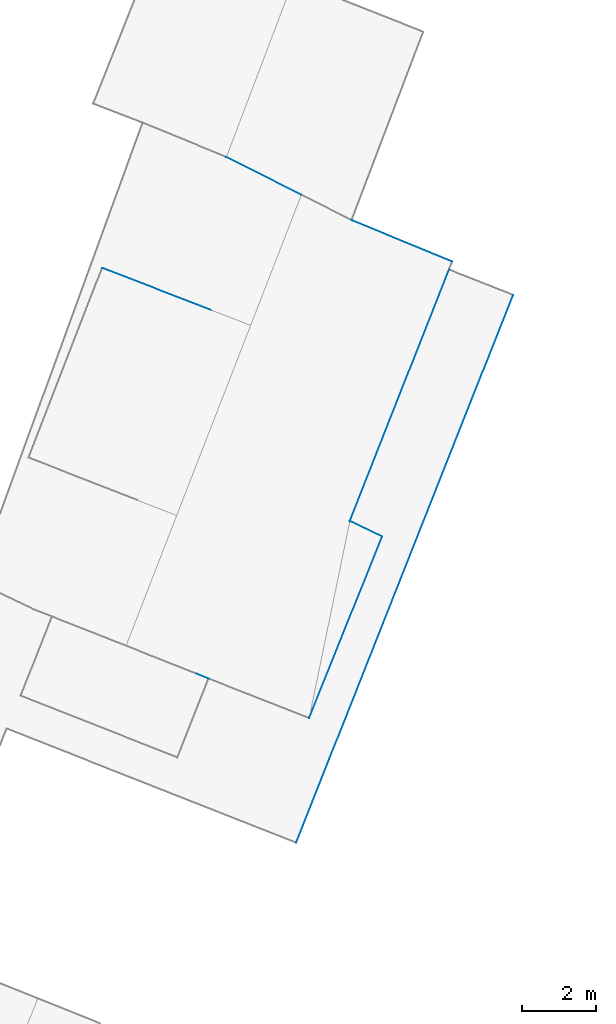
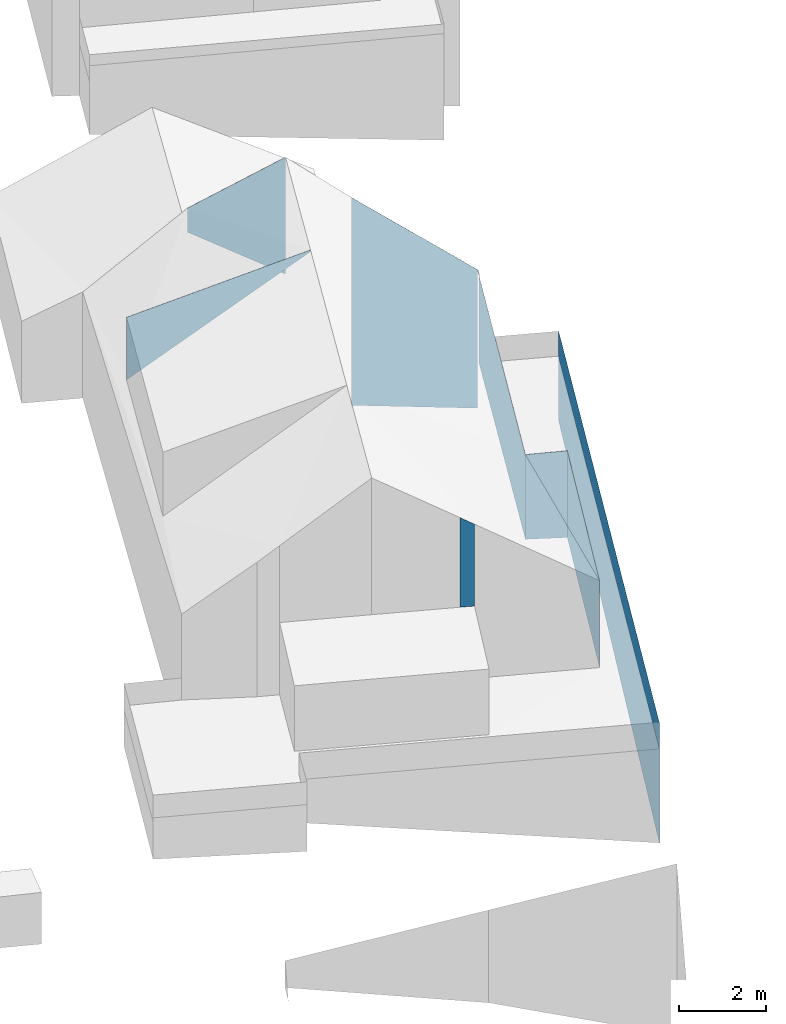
# Not in any storey, part 32 of 57: 10 walls.
"""IFC2X3 building model written with IfcOpenShell, lengths in metres."""

import ifcopenshell
import ifcopenshell.guid

model = None  # the IFC model being written
_history = None  # IfcOwnerHistory: only IFC2X3 demands one
_inside = {}  # id of a spatial element -> (the spatial element, [elements in it])
_under = {}  # id of a project, library or spatial element -> (it, [spatial elements below it])
_declared = {}  # id of a project -> (the project, [libraries it declares])
_typed = {}  # id of a type object -> (the type object, [elements of that type])
_made_of = {}  # id of a material, layer set ... -> (it, [elements and type objects made of it])


def new_model(schema):
    """Start an empty IFC model of exactly this schema.

    Asked for "IFC4X3", IfcOpenShell would pick the latest addendum, in which some entities
    have other attributes; the version numbers below select the first issue.
    IFC2X3 requires an IfcOwnerHistory on every rooted entity: one is made here for all.
    """
    global model, _history
    if schema == "IFC4X3":
        model = ifcopenshell.file(schema_version=(4, 3, 0, 0))
    else:
        model = ifcopenshell.file(schema=schema)
    _inside.clear()
    _under.clear()
    _declared.clear()
    _typed.clear()
    _made_of.clear()
    _history = None
    if model.schema == "IFC2X3":
        org = make("IfcOrganization", Name="unknown")
        user = make(
            "IfcPersonAndOrganization",
            ThePerson=make("IfcPerson", FamilyName="unknown"),
            TheOrganization=org,
        )
        app = make(
            "IfcApplication",
            ApplicationDeveloper=org,
            Version="unknown",
            ApplicationFullName="unknown",
            ApplicationIdentifier="unknown",
        )
        _history = make(
            "IfcOwnerHistory",
            OwningUser=user,
            OwningApplication=app,
            ChangeAction="ADDED",
            CreationDate=0,
        )
    return model


def make(cls, **values):
    """One entity of the class cls with the attributes given. An attribute that is None is left unset."""
    return model.create_entity(
        cls, **{name: value for name, value in values.items() if value is not None}
    )


def entity(cls, *values):
    """Any entity or typed value of the class cls, its attributes in the order of the schema. None: left unset."""
    e = model.create_entity(cls)
    for i, value in enumerate(values):
        if value is not None:
            e[i] = value
    return e


def rooted(cls, **values):
    """An entity with a GlobalId (a new one), such as an element, a storey or a relation."""
    return make(cls, GlobalId=ifcopenshell.guid.new(), OwnerHistory=_history, **values)


def si_unit(unit_type, name, prefix=None):
    """IfcSIUnit, for example si_unit("LENGTHUNIT", "METRE", prefix="MILLI")."""
    return make("IfcSIUnit", UnitType=unit_type, Prefix=prefix, Name=name)


def converted_unit(unit_type, name, factor, base, dimensions=None, offset=None):
    """IfcConversionBasedUnit, such as the inch: factor (a typed value) times the base unit."""
    return make(
        "IfcConversionBasedUnit"
        if offset is None
        else "IfcConversionBasedUnitWithOffset",
        ConversionOffset=offset,
        Dimensions=None
        if dimensions is None
        else entity("IfcDimensionalExponents", *dimensions),
        UnitType=unit_type,
        Name=name,
        ConversionFactor=make(
            "IfcMeasureWithUnit", ValueComponent=factor, UnitComponent=base
        ),
    )


def assignment(units):
    """IfcUnitAssignment: the units of a project."""
    return None if units is None else make("IfcUnitAssignment", Units=units)


def point(xyz):
    """IfcCartesianPoint."""
    return None if xyz is None else make("IfcCartesianPoint", Coordinates=xyz)


def direction(xyz):
    """IfcDirection."""
    return None if xyz is None else make("IfcDirection", DirectionRatios=xyz)


def frame(location, z_axis=None, x_axis=None):
    """IfcAxis2Placement3D, a coordinate frame: its origin and axes. An axis left out is left unset."""
    return make(
        "IfcAxis2Placement3D",
        Location=point(location),
        Axis=direction(z_axis),
        RefDirection=direction(x_axis),
    )


def origin():
    """The frame at (0, 0, 0) with its axes left unset."""
    return frame((0.0, 0.0, 0.0))


def place(relative_to, where):
    """IfcLocalPlacement: puts the frame where relative to a parent placement (None: the world)."""
    return make(
        "IfcLocalPlacement", PlacementRelTo=relative_to, RelativePlacement=where
    )


def context(
    kind, dimensions, precision=None, world=None, true_north=None, identifier=None
):
    """IfcGeometricRepresentationContext, for example the 3D "Model" context."""
    return make(
        "IfcGeometricRepresentationContext",
        ContextIdentifier=identifier,
        ContextType=kind,
        CoordinateSpaceDimension=dimensions,
        Precision=precision,
        WorldCoordinateSystem=world,
        TrueNorth=true_north,
    )


def subcontext(parent, identifier, kind, view, scale=None):
    """IfcGeometricRepresentationSubContext, for example "Body" below "Model"."""
    return make(
        "IfcGeometricRepresentationSubContext",
        ContextIdentifier=identifier,
        ContextType=kind,
        ParentContext=parent,
        TargetScale=scale,
        TargetView=view,
    )


def project(units=None, contexts=None):
    """IfcProject with its units and contexts."""
    return rooted(
        "IfcProject",
        Name="project",
        RepresentationContexts=contexts,
        UnitsInContext=assignment(units),
    )


def spatial(cls, under=None, at=None, **own):
    """A site, building, storey or space (cls), placed at a placement, below another one or the project."""
    s = rooted(cls, ObjectPlacement=at, **own)
    if under is not None:
        _under.setdefault(under.id(), (under, []))[1].append(s)
    return s


def faces_of(points, faces, orient=None, outer=None):
    """IfcFace entities. A face is a list of loops; a loop is a list of indices into points, from 0.

    orient and outer hold one flag for each loop. By default every Orientation is true, the
    first loop of a face is its IfcFaceOuterBound and the others are IfcFaceBound.
    """
    made = []
    for i, loops in enumerate(faces):
        bounds = []
        for j, loop in enumerate(loops):
            is_outer = j == 0 if outer is None else outer[i][j]
            bounds.append(
                make(
                    "IfcFaceOuterBound" if is_outer else "IfcFaceBound",
                    Bound=make("IfcPolyLoop", Polygon=[points[k] for k in loop]),
                    Orientation=True if orient is None else orient[i][j],
                )
            )
        made.append(make("IfcFace", Bounds=bounds))
    return made


def face_set(faces, orient=None, outer=None):
    """The faces of one IfcConnectedFaceSet. surface_model builds it on its shared points."""
    return ("IfcConnectedFaceSet", faces, orient, outer)


def surface_model(cls, points, shells):
    """IfcFaceBasedSurfaceModel or IfcShellBasedSurfaceModel (cls): surfaces that need not close."""
    shared = [point(p) for p in points]
    made = [make(c, CfsFaces=faces_of(shared, fs, o, b)) for c, fs, o, b in shells]
    if cls == "IfcFaceBasedSurfaceModel":
        return make(cls, FbsmFaces=made)
    return make(cls, SbsmBoundary=made)


def shape(context_of_items, identifier, shape_type, items):
    """IfcShapeRepresentation: the items that make up one representation, for example the "Body"."""
    return make(
        "IfcShapeRepresentation",
        ContextOfItems=context_of_items,
        RepresentationIdentifier=identifier,
        RepresentationType=shape_type,
        Items=items,
    )


def made_of(thing, what):
    """Note that an element or type object is made of a material, layer set ...; save() writes the relation."""
    if what is not None:
        _made_of.setdefault(what.id(), (what, []))[1].append(thing)
    return thing


def element(
    cls,
    number,
    at=None,
    inside=None,
    cuts=None,
    type_object=None,
    material=None,
    context=None,
    identifier="Body",
    shape_type=None,
    held_by="IfcProductDefinitionShape",
    body=None,
    shapes=None,
    **own,
):
    """One element of the class cls, such as IfcWall. Its Tag is "e" and its number.

    at: its placement. inside: the storey or other place that contains it. cuts: it is an
    opening in that element (IfcRelVoidsElement). A single representation is given by context,
    identifier, shape_type and body (its items); several are given by shapes. held_by: the class
    of the entity that holds the representations. save() writes the other relations.
    """
    e = rooted(cls, Tag="e%d" % number, ObjectPlacement=at, **own)
    if body is not None:
        shapes = [shape(context, identifier, shape_type, body)]
    if shapes is not None:
        e.Representation = make(held_by, Representations=shapes)
    if inside is not None:
        _inside.setdefault(inside.id(), (inside, []))[1].append(e)
    if cuts is not None:
        rooted(
            "IfcRelVoidsElement", RelatingBuildingElement=cuts, RelatedOpeningElement=e
        )
    if type_object is not None:
        _typed.setdefault(type_object.id(), (type_object, []))[1].append(e)
    return made_of(e, material)


def aggregate(whole, parts):
    """IfcRelAggregates: a whole, such as a stair, and the parts it consists of."""
    return rooted("IfcRelAggregates", RelatingObject=whole, RelatedObjects=parts)


def save(model, path):
    """Write the relations noted so far, then the file.

    IfcRelAggregates (storeys below a building ...), IfcRelContainedInSpatialStructure (elements
    in a storey), IfcRelDefinesByType, IfcRelAssociatesMaterial and IfcRelDeclares: one each for
    every whole, place, type object, material and project.
    """
    for whole, parts in _under.values():
        aggregate(whole, parts)
    for where, things in _inside.values():
        rooted(
            "IfcRelContainedInSpatialStructure",
            RelatedElements=things,
            RelatingStructure=where,
        )
    for kind, things in _typed.values():
        rooted("IfcRelDefinesByType", RelatedObjects=things, RelatingType=kind)
    for what, things in _made_of.values():
        rooted("IfcRelAssociatesMaterial", RelatedObjects=things, RelatingMaterial=what)
    for by, libraries in _declared.values():
        rooted("IfcRelDeclares", RelatingContext=by, RelatedDefinitions=libraries)
    model.write(path)


model = new_model("IFC2X3")

# Units and contexts
model_context = context("Model", 3, precision=1e-05, world=origin())
body_context = subcontext(model_context, "Body", "Model", "MODEL_VIEW")
ifc_project = project(units=[converted_unit("PLANEANGLEUNIT", "DEGREE", entity("IfcRatioMeasure", 0.0174532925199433), si_unit("PLANEANGLEUNIT", "RADIAN"), dimensions=[0, 0, 0, 0, 0, 0, 0]), si_unit("AREAUNIT", "SQUARE_METRE"), si_unit("LENGTHUNIT", "METRE")], contexts=[model_context])

# Site, building
site_placement = place(None, origin())
site = spatial("IfcSite", under=ifc_project, at=site_placement, Name="_site", CompositionType="ELEMENT")
building_placement = place(site_placement, origin())
building = spatial("IfcBuilding", under=site, at=building_placement, Name="_building", CompositionType="ELEMENT")

# Walls
wall_1_placement = place(building_placement, origin())
element("IfcWall", 1, at=wall_1_placement, inside=building, Name="Wall", context=body_context, shape_type="SurfaceModel", body=[
    surface_model("IfcFaceBasedSurfaceModel", [(273.276, 86.812, 109.86), (274.146, 86.392, 109.92), (274.146, 86.392, 107.48), (273.276, 86.812, 107.48)], [face_set([[[0, 1, 2, 3]]])]),
])
wall_2_placement = place(building_placement, origin())
element("IfcWall", 2, at=wall_2_placement, inside=building, Name="Wall", context=body_context, shape_type="SurfaceModel", body=[
    surface_model("IfcFaceBasedSurfaceModel", [(269.953, 96.606, 112.01), (271.97, 95.589, 113.35), (271.97, 95.589, 110.062), (269.953, 96.606, 111.33)], [face_set([[[0, 1, 2, 3]]])]),
])
wall_3_placement = place(building_placement, origin())
element("IfcWall", 3, at=wall_3_placement, inside=building, Name="Wall", context=body_context, shape_type="SurfaceModel", body=[
    surface_model("IfcFaceBasedSurfaceModel", [(266.611, 93.622, 111.92), (270.607, 92.078, 113.35), (270.607, 92.078, 113.3), (266.611, 93.622, 110.16)], [face_set([[[0, 1, 2, 3]]])]),
])
wall_4_placement = place(building_placement, origin())
element("IfcWall", 4, at=wall_4_placement, inside=building, Name="Wall", context=body_context, shape_type="SurfaceModel", body=[
    surface_model("IfcFaceBasedSurfaceModel", [(275.946, 93.574, 109.86), (273.276, 86.812, 109.86), (273.276, 86.812, 107.48), (275.946, 93.574, 107.4)], [face_set([[[0, 1, 2, 3]]])]),
])
wall_5_placement = place(building_placement, origin())
element("IfcWall", 5, at=wall_5_placement, inside=building, Name="Wall", context=body_context, shape_type="SurfaceModel", body=[
    surface_model("IfcFaceBasedSurfaceModel", [(274.146, 86.392, 109.92), (272.181, 81.504, 109.92), (272.181, 81.504, 107.48), (274.146, 86.392, 107.48)], [face_set([[[0, 1, 2, 3]]])]),
])
wall_6_placement = place(building_placement, origin())
element("IfcWall", 6, at=wall_6_placement, inside=building, Name="Wall", context=body_context, shape_type="SurfaceModel", body=[
    surface_model("IfcFaceBasedSurfaceModel", [(277.671, 92.893, 107.4), (271.832, 78.151, 107.4), (271.832, 78.151, 104.712), (277.671, 92.893, 105.576)], [face_set([[[0, 1, 2, 3]]])]),
])
wall_7_placement = place(building_placement, origin())
element("IfcWall", 7, at=wall_7_placement, inside=building, Name="Wall", context=body_context, shape_type="SurfaceModel", body=[
    surface_model("IfcFaceBasedSurfaceModel", [(269.474, 82.568, 111.81), (269.157, 82.696, 112.03), (269.157, 82.696, 109.51), (269.474, 82.568, 109.51)], [face_set([[[0, 1, 2, 3]]])]),
])
wall_8_placement = place(building_placement, origin())
element("IfcWall", 8, at=wall_8_placement, inside=building, Name="Wall", context=body_context, shape_type="SurfaceModel", body=[
    surface_model("IfcFaceBasedSurfaceModel", [(273.325, 94.906, 112.16), (276.031, 93.792, 109.86), (276.031, 93.792, 105.966), (273.325, 94.906, 106.317)], [face_set([[[0, 1, 2, 3]]])]),
])
for number, where, name in (
    (9, (0.0, 0.0, 0.0), "Wall"),
    (10, (0.0, 0.0, 0.0), "Wall"),
):
    element("IfcWall", number, at=place(building_placement, frame(where)), inside=building, Name=name, context=body_context, shape_type="SurfaceModel", body=[
        surface_model("IfcFaceBasedSurfaceModel", [(271.832, 78.151, 107.35), (277.671, 92.893, 107.35), (277.671, 92.893, 108.1), (271.832, 78.151, 108.1)], [face_set([[[0, 1, 2, 3]]])]),
    ])

save(model, "model.ifc")
